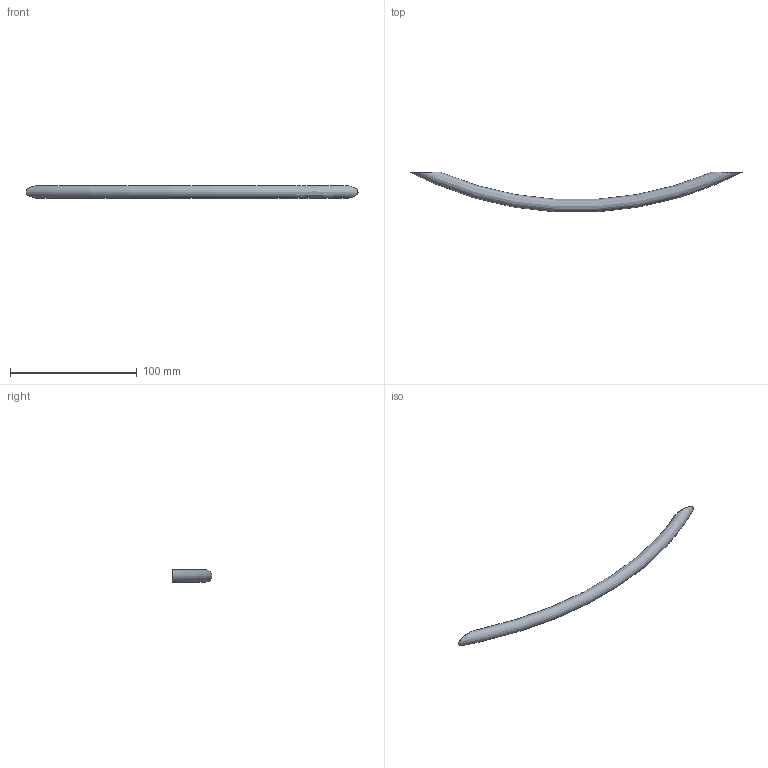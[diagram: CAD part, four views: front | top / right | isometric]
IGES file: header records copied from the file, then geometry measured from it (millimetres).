
Start section: Data from Parasolid IGES Translator 15.0.47, Copyright(c) 2006 Siemens P LM Software. All Rights Reserved.
Global section: file name: 9071049.igs; native system:  By UGS Corp.; preprocessor: XPlus GENERIC/IGES 3.0; author: Noname; organization: Noname; date: 20140827.155646; units: millimetre
Bounding box: 262 x 31.53 x 10 mm (x, y, z)
Surface area: 8283.4 mm2 (no closed solid volume)
Topology: 0 solids, 0 shells, 7 faces, 18 edges, 14 vertices
Faces by surface type: extrusion 4, revolution 3
